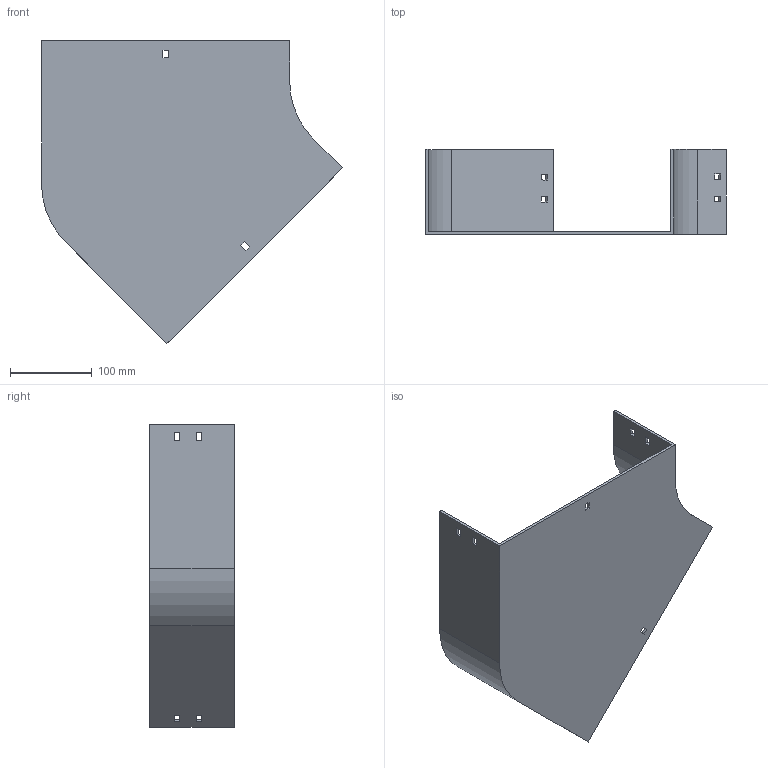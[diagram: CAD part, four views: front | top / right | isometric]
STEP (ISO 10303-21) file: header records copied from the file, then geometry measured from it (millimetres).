
FILE_DESCRIPTION (( 'STEP AP214' ), '1' );
FILE_NAME ('11B1D300.step', '2025-02-21T09:36:43', ( '' ), ( '' ), 'SwSTEP 2.0', 'SolidWorks 2023', '' );
FILE_SCHEMA (( 'AUTOMOTIVE_DESIGN' ));
Length unit declared in the file: millimetre
Products named in the file (1): 11B1D300
Bounding box: 368.64 x 104 x 371.03 mm (x, y, z)
Volume: 540343.1 mm3; surface area: 315602.7 mm2
Topology: 1 solids, 1 shells, 58 faces, 168 edges, 112 vertices
Faces by surface type: plane 54, cylinder 4
Entity records: 1943 total; most frequent: CARTESIAN_POINT 339, ORIENTED_EDGE 336, DIRECTION 294, EDGE_CURVE 168, VECTOR 160, LINE 160, VERTEX_POINT 112, EDGE_LOOP 78
